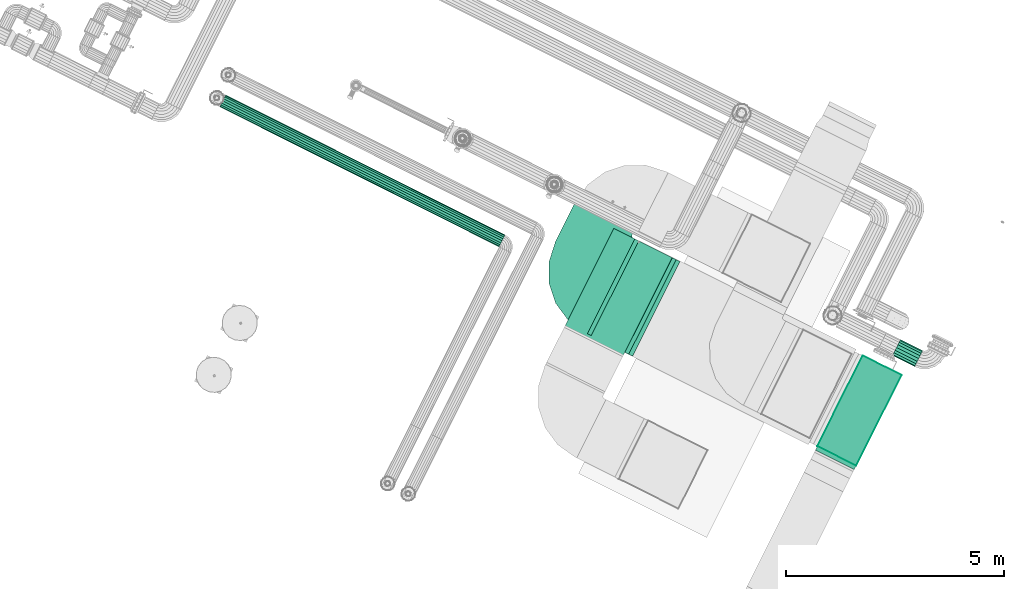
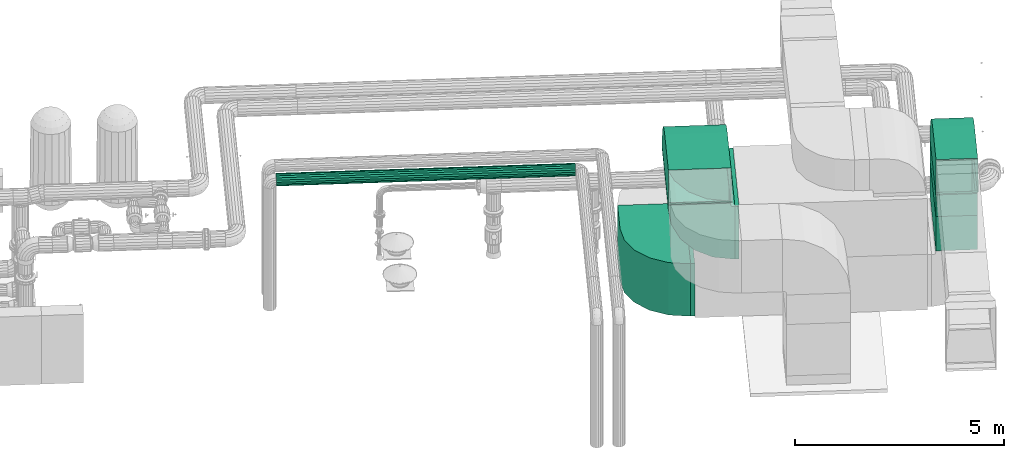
# One storey, part 7 of 152: 4 flow fittings, 4 flow segments, 2 flow moving devices.
"""IFC2X3 building model written with IfcOpenShell, lengths in metres."""

from ifc_helpers import new_model, si_unit, derived_unit, direction, frame, origin, place, context, subcontext, project, spatial, face_set, surface_model, source, transform, mapped, material, type_object, type_shapes, element, save


model = new_model("IFC2X3")

# Units and contexts
model_context = context("Model", 3, precision=5.2338327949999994e-05, world=origin(), true_north=direction((0.0, 1.0)))
body_context = subcontext(model_context, "Body", "Model", "MODEL_VIEW")
ifc_project = project(units=[si_unit("LENGTHUNIT", "METRE"), si_unit("AREAUNIT", "SQUARE_METRE"), si_unit("VOLUMEUNIT", "CUBIC_METRE"), si_unit("MASSUNIT", "GRAM", prefix="KILO"), si_unit("PLANEANGLEUNIT", "RADIAN"), derived_unit("THERMALTRANSMITTANCEUNIT", [(si_unit("MASSUNIT", "GRAM", prefix="KILO"), 1), (si_unit("THERMODYNAMICTEMPERATUREUNIT", "KELVIN"), -1), (si_unit("TIMEUNIT", "SECOND"), -3)])], contexts=[model_context])

# Site, building, storey
site_placement = place(None, frame((0.0, 0.0, 0.0), z_axis=(0.0, 0.0, 1.0), x_axis=(0.8939966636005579, -0.4480736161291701, 0.0)))
site = spatial("IfcSite", under=ifc_project, at=site_placement, Name="Default", CompositionType="ELEMENT")
building_placement = place(site_placement, origin())
building = spatial("IfcBuilding", under=site, at=building_placement, CompositionType="ELEMENT")
storey_placement = place(building_placement, frame((0.0, 0.0, 2.7499999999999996)))
storey = spatial("IfcBuildingStorey", under=building, at=storey_placement, Name="1. Obergeschoss", CompositionType="ELEMENT", Elevation=2.7499999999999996)

# Flow segment
ifc_material_1 = material(Name="IfcSurfaceStyle #9317")
distribution_element_type_1 = type_object("IfcDistributionElementType", Name="Stahlrohr nach DIN 2448 251962:Stahlrohr nach DIN 2448 251962", material=ifc_material_1)
shared_shape_1 = source(origin(), body_context, "Body", "SurfaceModel", [
    surface_model("IfcFaceBasedSurfaceModel", [(24.943699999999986, 6.7661679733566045, 6.613249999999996), (24.943699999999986, 6.746621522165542, 6.616696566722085), (17.778232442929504, 6.746621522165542, 6.616696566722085), (17.778232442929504, 6.7661679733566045, 6.613249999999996), (24.943699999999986, 6.729432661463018, 6.62662056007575), (17.778232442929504, 6.729432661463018, 6.62662056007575), (24.943699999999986, 6.716674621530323, 6.641824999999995), (17.778232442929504, 6.716674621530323, 6.641825), (24.943699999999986, 6.709886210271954, 6.660476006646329), (17.778232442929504, 6.709886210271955, 6.660476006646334), (24.943699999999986, 6.709886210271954, 6.680323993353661), (17.778232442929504, 6.709886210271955, 6.680323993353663), (24.943699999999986, 6.716674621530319, 6.698975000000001), (17.778232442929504, 6.716674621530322, 6.698975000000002), (24.943699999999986, 6.729432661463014, 6.714179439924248), (17.778232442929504, 6.729432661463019, 6.714179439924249), (24.943699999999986, 6.746621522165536, 6.724103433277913), (17.778232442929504, 6.74662152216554, 6.724103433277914), (24.943699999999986, 6.7661679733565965, 6.727549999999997), (17.778232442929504, 6.766167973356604, 6.727549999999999), (24.943699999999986, 6.785714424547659, 6.7241034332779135), (17.778232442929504, 6.785714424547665, 6.724103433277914), (24.943699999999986, 6.802903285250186, 6.714179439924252), (17.778232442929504, 6.8029032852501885, 6.71417943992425), (24.943699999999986, 6.81566132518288, 6.698975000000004), (17.778232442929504, 6.815661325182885, 6.698975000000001), (24.943699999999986, 6.822449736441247, 6.680323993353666), (17.778232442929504, 6.82244973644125, 6.680323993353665), (24.943699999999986, 6.822449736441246, 6.660476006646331), (17.778232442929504, 6.822449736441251, 6.660476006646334), (24.943699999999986, 6.815661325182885, 6.641825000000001), (17.778232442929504, 6.815661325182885, 6.641825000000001), (24.943699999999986, 6.8029032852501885, 6.626620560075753), (17.778232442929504, 6.802903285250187, 6.62662056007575), (24.943699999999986, 6.785714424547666, 6.616696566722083), (17.778232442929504, 6.785714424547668, 6.616696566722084), (24.943699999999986, 6.766167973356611, 6.5132499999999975), (24.943699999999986, 6.712419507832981, 6.522727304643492), (17.778232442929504, 6.712419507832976, 6.522727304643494), (17.778232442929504, 6.766167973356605, 6.513249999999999), (24.943699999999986, 6.665153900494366, 6.550016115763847), (17.778232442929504, 6.665153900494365, 6.550016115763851), (24.943699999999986, 6.63007208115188, 6.591824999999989), (17.778232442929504, 6.63007208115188, 6.591824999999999), (24.943699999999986, 6.611405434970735, 6.643111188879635), (17.778232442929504, 6.611405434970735, 6.64311118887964), (24.943699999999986, 6.61140543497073, 6.6976888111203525), (17.778232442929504, 6.6114054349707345, 6.697688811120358), (24.943699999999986, 6.630072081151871, 6.748974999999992), (17.778232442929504, 6.630072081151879, 6.748974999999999), (24.943699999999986, 6.665153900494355, 6.790783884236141), (17.778232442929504, 6.665153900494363, 6.790783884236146), (24.943699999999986, 6.712419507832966, 6.818072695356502), (17.778232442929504, 6.712419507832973, 6.8180726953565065), (24.943699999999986, 6.766167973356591, 6.827549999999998), (17.778232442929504, 6.766167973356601, 6.82755), (24.943699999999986, 6.819916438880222, 6.818072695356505), (17.778232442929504, 6.81991643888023, 6.818072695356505), (24.943699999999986, 6.8671820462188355, 6.790783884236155), (17.778232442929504, 6.867182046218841, 6.790783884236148), (24.943699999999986, 6.902263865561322, 6.748975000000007), (17.778232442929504, 6.902263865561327, 6.748974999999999), (24.943699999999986, 6.920930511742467, 6.697688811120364), (17.778232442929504, 6.920930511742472, 6.697688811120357), (24.943699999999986, 6.920930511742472, 6.643111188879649), (17.778232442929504, 6.920930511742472, 6.643111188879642), (24.943699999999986, 6.902263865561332, 6.5918250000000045), (17.778232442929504, 6.902263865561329, 6.591825), (24.943699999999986, 6.867182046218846, 6.550016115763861), (17.778232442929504, 6.8671820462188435, 6.550016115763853), (24.943699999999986, 6.819916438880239, 6.522727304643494), (17.778232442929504, 6.8199164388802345, 6.522727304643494)], [face_set([[[0, 1, 2, 3]], [[1, 4, 5, 2]], [[4, 6, 7, 5]], [[6, 8, 9, 7]], [[8, 10, 11, 9]], [[10, 12, 13, 11]], [[12, 14, 15, 13]], [[14, 16, 17, 15]], [[16, 18, 19, 17]], [[18, 20, 21, 19]], [[20, 22, 23, 21]], [[22, 24, 25, 23]], [[24, 26, 27, 25]], [[26, 28, 29, 27]], [[28, 30, 31, 29]], [[30, 32, 33, 31]], [[32, 34, 35, 33]], [[34, 0, 3, 35]], [[36, 37, 38, 39]], [[37, 40, 41, 38]], [[40, 42, 43, 41]], [[42, 44, 45, 43]], [[44, 46, 47, 45]], [[46, 48, 49, 47]], [[48, 50, 51, 49]], [[50, 52, 53, 51]], [[52, 54, 55, 53]], [[54, 56, 57, 55]], [[56, 58, 59, 57]], [[58, 60, 61, 59]], [[60, 62, 63, 61]], [[62, 64, 65, 63]], [[64, 66, 67, 65]], [[66, 68, 69, 67]], [[68, 70, 71, 69]], [[70, 36, 39, 71]]])]),
])
type_shapes(distribution_element_type_1, [shared_shape_1])
flow_segment_1_placement = place(storey_placement, frame((0.0, 0.0, -2.7499999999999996)))
element("IfcFlowSegment", 1, at=flow_segment_1_placement, inside=storey, type_object=distribution_element_type_1, material=ifc_material_1, Name="Stahlrohr nach DIN 2448", ObjectType="Stahlrohr nach DIN 2448", context=body_context, shape_type="MappedRepresentation", body=[
    mapped(shared_shape_1, transform((0.0, 0.0, 0.0), scale=1.0)),
])

# Flow moving devices
ifc_material_2 = material(Name="IfcSurfaceStyle #271263")
distribution_element_type_2 = type_object("IfcDistributionElementType", Name="Geräteanschluss 271206:Geräteanschluss 271206", material=ifc_material_2)
shared_shape_2 = source(origin(), body_context, "Body", "SurfaceModel", [
    surface_model("IfcFaceBasedSurfaceModel", [(28.807000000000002, 5.74186958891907, 4.6209999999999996), (28.706999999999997, 5.74186958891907, 4.6209999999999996), (28.706999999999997, 8.173869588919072, 4.6209999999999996), (28.807000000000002, 8.173869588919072, 4.6209999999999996), (28.706999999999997, 8.173869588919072, 6.151), (28.807000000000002, 8.173869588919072, 6.151), (28.706999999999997, 5.74186958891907, 6.151), (28.807000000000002, 5.74186958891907, 6.151)], [face_set([[[0, 1, 2, 3]], [[3, 2, 4, 5]], [[5, 4, 6, 7]], [[7, 6, 1, 0]]])]),
])
type_shapes(distribution_element_type_2, [shared_shape_2])
flow_moving_device_1_placement = place(storey_placement, frame((0.0, 0.0, -2.7499999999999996)))
element("IfcFlowMovingDevice", 2, at=flow_moving_device_1_placement, inside=storey, type_object=distribution_element_type_2, material=ifc_material_2, Name="Geräteanschluss", ObjectType="Geräteanschluss", context=body_context, shape_type="MappedRepresentation", body=[
    mapped(shared_shape_2, transform((0.0, 0.0, 0.0), scale=1.0)),
])
ifc_material_3 = material(Name="IfcSurfaceStyle #271571")
distribution_element_type_3 = type_object("IfcDistributionElementType", Name="Geräteanschluss 271546:Geräteanschluss 271546", material=ifc_material_3)
shared_shape_3 = source(origin(), body_context, "Body", "SurfaceModel", [
    surface_model("IfcFaceBasedSurfaceModel", [(27.747, 5.74186958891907, 2.997), (27.646999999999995, 5.74186958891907, 2.997), (27.646999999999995, 8.173869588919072, 2.997), (27.747, 8.173869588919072, 2.997), (27.646999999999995, 8.173869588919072, 4.526999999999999), (27.747, 8.173869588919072, 4.526999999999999), (27.646999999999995, 5.74186958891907, 4.526999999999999), (27.747, 5.74186958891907, 4.526999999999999)], [face_set([[[0, 1, 2, 3]], [[3, 2, 4, 5]], [[5, 4, 6, 7]], [[7, 6, 1, 0]]])]),
])
type_shapes(distribution_element_type_3, [shared_shape_3])
flow_moving_device_2_placement = place(storey_placement, frame((0.0, 0.0, -2.7499999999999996)))
element("IfcFlowMovingDevice", 3, at=flow_moving_device_2_placement, inside=storey, type_object=distribution_element_type_3, material=ifc_material_3, Name="Geräteanschluss", ObjectType="Geräteanschluss", context=body_context, shape_type="MappedRepresentation", body=[
    mapped(shared_shape_3, transform((0.0, 0.0, 0.0), scale=1.0)),
])

# Flow fittings
distribution_element_type_4 = type_object("IfcDistributionElementType", Name="Bogen asymmetrisch:Bogen asymmetrisch", material=ifc_material_3)
shared_shape_4 = source(origin(), body_context, "Body", "SurfaceModel", [
    surface_model("IfcFaceBasedSurfaceModel", [(26.046999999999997, 7.29186958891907, 4.526999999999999), (26.046999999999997, 8.273869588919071, 4.526999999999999), (26.046999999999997, 8.273869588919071, 2.997), (26.046999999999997, 7.29186958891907, 2.997), (27.546999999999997, 8.273869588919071, 4.526999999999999), (27.546999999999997, 8.223869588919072, 4.526999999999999), (27.546999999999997, 8.223869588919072, 2.997), (27.546999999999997, 8.273869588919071, 2.997), (27.596999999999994, 8.173869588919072, 2.997), (27.581549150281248, 8.176316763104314, 2.997), (27.581549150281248, 8.176316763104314, 4.526999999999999), (27.596999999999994, 8.173869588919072, 4.526999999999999), (27.567610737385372, 8.183418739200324, 2.997), (27.567610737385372, 8.183418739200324, 4.526999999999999), (27.55654915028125, 8.194480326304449, 2.997), (27.55654915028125, 8.194480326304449, 4.526999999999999), (27.549447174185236, 8.208418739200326, 2.997), (27.549447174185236, 8.208418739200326, 4.526999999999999), (27.646999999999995, 8.173869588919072, 4.526999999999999), (27.646999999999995, 8.173869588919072, 2.997), (27.646999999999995, 5.74186958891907, 4.526999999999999), (27.596999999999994, 5.74186958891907, 4.526999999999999), (27.596999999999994, 5.74186958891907, 2.997), (27.646999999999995, 5.74186958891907, 2.997), (26.122862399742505, 6.812893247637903, 2.997), (26.122862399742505, 6.812893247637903, 4.526999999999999), (26.343023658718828, 6.380802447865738, 2.997), (26.343023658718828, 6.380802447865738, 4.526999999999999), (26.685932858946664, 6.0378932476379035, 2.997), (26.685932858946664, 6.0378932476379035, 4.526999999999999), (27.118023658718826, 5.81773198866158, 2.997), (27.118023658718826, 5.81773198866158, 4.526999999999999)], [face_set([[[0, 1, 2, 3]], [[4, 5, 6, 7]], [[8, 9, 10, 11]], [[9, 12, 13, 10]], [[12, 14, 15, 13]], [[14, 16, 17, 15]], [[16, 6, 5, 17]], [[11, 18, 19, 8]], [[20, 21, 22, 23]], [[3, 24, 25, 0]], [[24, 26, 27, 25]], [[26, 28, 29, 27]], [[28, 30, 31, 29]], [[30, 22, 21, 31]], [[3, 2, 7]], [[3, 7, 6]], [[3, 6, 16]], [[3, 16, 14]], [[3, 14, 12]], [[3, 12, 9]], [[3, 9, 8]], [[3, 8, 19]], [[3, 19, 23]], [[3, 23, 22]], [[3, 22, 30]], [[3, 30, 28]], [[3, 28, 26]], [[3, 26, 24]], [[4, 1, 0]], [[5, 4, 0]], [[17, 5, 0]], [[15, 17, 0]], [[13, 15, 0]], [[10, 13, 0]], [[11, 10, 0]], [[18, 11, 0]], [[20, 18, 0]], [[21, 20, 0]], [[31, 21, 0]], [[29, 31, 0]], [[27, 29, 0]], [[25, 27, 0]]])]),
])
type_shapes(distribution_element_type_4, [shared_shape_4])
flow_fitting_1_placement = place(storey_placement, frame((0.0, 0.0, -2.7499999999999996)))
element("IfcFlowFitting", 4, at=flow_fitting_1_placement, inside=storey, type_object=distribution_element_type_4, material=ifc_material_3, Name="Bogen asymmetrisch", ObjectType="Bogen asymmetrisch", context=body_context, shape_type="MappedRepresentation", body=[
    mapped(shared_shape_4, transform((0.0, 0.0, 0.0), scale=1.0)),
])
distribution_element_type_5 = type_object("IfcDistributionElementType", Name="Bogen asymmetrisch 273551:Bogen asymmetrisch 273551", material=ifc_material_2)
shared_shape_5 = source(origin(), body_context, "Body", "SurfaceModel", [
    surface_model("IfcFaceBasedSurfaceModel", [(28.657, 5.74186958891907, 4.620999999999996), (28.178023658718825, 5.74186958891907, 4.696862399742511), (28.178023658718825, 8.173869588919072, 4.696862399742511), (28.656999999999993, 8.173869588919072, 4.620999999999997), (27.745932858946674, 5.74186958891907, 4.917023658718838), (27.74593285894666, 8.173869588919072, 4.917023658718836), (27.403023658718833, 5.74186958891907, 5.259932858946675), (27.403023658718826, 8.173869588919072, 5.259932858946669), (27.18286239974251, 5.74186958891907, 5.692023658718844), (27.182862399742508, 8.173869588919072, 5.692023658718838), (27.107000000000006, 5.74186958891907, 6.1710000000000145), (27.10699999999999, 8.173869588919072, 6.17100000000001), (28.706999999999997, 8.173869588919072, 4.620999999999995), (28.707, 5.74186958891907, 4.620999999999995), (28.70699999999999, 8.173869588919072, 6.150999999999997), (28.656999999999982, 8.173869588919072, 6.151), (28.656999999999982, 5.741869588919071, 6.151), (28.70699999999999, 5.741869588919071, 6.150999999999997), (28.606999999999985, 5.741869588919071, 6.200999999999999), (28.609447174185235, 5.741869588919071, 6.185549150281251), (28.609447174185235, 8.173869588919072, 6.185549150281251), (28.606999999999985, 8.173869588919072, 6.200999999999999), (28.616549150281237, 5.741869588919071, 6.171610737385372), (28.616549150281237, 8.173869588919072, 6.171610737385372), (28.627610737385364, 5.741869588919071, 6.160549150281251), (28.627610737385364, 8.173869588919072, 6.160549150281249), (28.641549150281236, 5.741869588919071, 6.153447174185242), (28.641549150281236, 8.173869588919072, 6.153447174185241), (28.606999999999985, 8.173869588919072, 6.250999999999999), (28.606999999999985, 5.741869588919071, 6.2509999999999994), (27.10699999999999, 8.173869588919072, 6.251000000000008), (27.106999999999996, 5.741869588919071, 6.251000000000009)], [face_set([[[0, 1, 2, 3]], [[1, 4, 5, 2]], [[4, 6, 7, 5]], [[6, 8, 9, 7]], [[8, 10, 11, 9]], [[3, 12, 13, 0]], [[14, 15, 16, 17]], [[18, 19, 20, 21]], [[19, 22, 23, 20]], [[22, 24, 25, 23]], [[24, 26, 27, 25]], [[26, 16, 15, 27]], [[21, 28, 29, 18]], [[30, 11, 10, 31]], [[1, 0, 26]], [[1, 26, 24]], [[1, 24, 22]], [[1, 22, 19]], [[1, 19, 18]], [[1, 18, 31]], [[1, 31, 4]], [[16, 26, 0]], [[16, 0, 13]], [[16, 13, 17]], [[31, 10, 8]], [[31, 8, 6]], [[31, 6, 4]], [[31, 18, 29]], [[27, 3, 2]], [[25, 27, 2]], [[23, 25, 2]], [[20, 23, 2]], [[21, 20, 2]], [[30, 21, 2]], [[5, 30, 2]], [[3, 27, 15]], [[12, 3, 15]], [[14, 12, 15]], [[9, 11, 30]], [[7, 9, 30]], [[5, 7, 30]], [[28, 21, 30]]])]),
])
type_shapes(distribution_element_type_5, [shared_shape_5])
flow_fitting_2_placement = place(storey_placement, frame((0.0, 0.0, -2.7499999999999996)))
element("IfcFlowFitting", 5, at=flow_fitting_2_placement, inside=storey, type_object=distribution_element_type_5, material=ifc_material_2, Name="Bogen asymmetrisch", ObjectType="Bogen asymmetrisch", context=body_context, shape_type="MappedRepresentation", body=[
    mapped(shared_shape_5, transform((0.0, 0.0, 0.0), scale=1.0)),
])
distribution_element_type_6 = type_object("IfcDistributionElementType", Name="Bogen asymmetrisch 273840:Bogen asymmetrisch 273840", material=ifc_material_2)
shared_shape_6 = source(origin(), body_context, "Body", "SurfaceModel", [
    surface_model("IfcFaceBasedSurfaceModel", [(27.106999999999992, 7.123869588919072, 7.351), (27.106999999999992, 5.6418695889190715, 7.351), (28.606999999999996, 5.6418695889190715, 7.351), (28.606999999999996, 7.123869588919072, 7.351), (27.106999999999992, 5.6418695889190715, 6.351), (27.106999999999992, 5.691869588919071, 6.351), (28.606999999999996, 5.691869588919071, 6.351), (28.606999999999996, 5.6418695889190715, 6.351), (28.606999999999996, 5.74186958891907, 6.301), (28.606999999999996, 5.739422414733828, 6.316450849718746), (27.106999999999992, 5.739422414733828, 6.316450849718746), (27.106999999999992, 5.74186958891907, 6.301), (28.606999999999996, 5.732320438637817, 6.330389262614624), (27.106999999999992, 5.732320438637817, 6.330389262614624), (28.606999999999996, 5.721258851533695, 6.341450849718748), (27.106999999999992, 5.721258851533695, 6.341450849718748), (28.606999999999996, 5.707320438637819, 6.3485528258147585), (27.106999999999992, 5.707320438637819, 6.3485528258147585), (27.106999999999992, 5.74186958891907, 6.250999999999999), (28.606999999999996, 5.74186958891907, 6.250999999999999), (27.106999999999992, 8.173869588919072, 6.250999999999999), (27.106999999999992, 8.173869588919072, 6.301), (28.606999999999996, 8.173869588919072, 6.301), (28.606999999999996, 8.173869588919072, 6.250999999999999), (28.606999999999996, 7.448337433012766, 7.299609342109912), (27.106999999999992, 7.448337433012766, 7.299609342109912), (28.606999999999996, 7.741044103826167, 7.150467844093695), (27.106999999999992, 7.741044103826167, 7.150467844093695), (28.606999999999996, 7.973337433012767, 6.918174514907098), (27.106999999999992, 7.973337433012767, 6.918174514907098), (28.606999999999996, 8.122478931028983, 6.625467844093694), (27.106999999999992, 8.122478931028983, 6.625467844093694)], [face_set([[[0, 1, 2, 3]], [[4, 5, 6, 7]], [[8, 9, 10, 11]], [[9, 12, 13, 10]], [[12, 14, 15, 13]], [[14, 16, 17, 15]], [[16, 6, 5, 17]], [[11, 18, 19, 8]], [[20, 21, 22, 23]], [[3, 24, 25, 0]], [[24, 26, 27, 25]], [[26, 28, 29, 27]], [[28, 30, 31, 29]], [[30, 22, 21, 31]], [[3, 2, 7]], [[3, 7, 6]], [[3, 6, 16]], [[3, 16, 14]], [[3, 14, 12]], [[3, 12, 9]], [[3, 9, 8]], [[3, 8, 19]], [[3, 19, 23]], [[3, 23, 22]], [[3, 22, 30]], [[3, 30, 28]], [[3, 28, 26]], [[3, 26, 24]], [[4, 1, 0]], [[5, 4, 0]], [[17, 5, 0]], [[15, 17, 0]], [[13, 15, 0]], [[10, 13, 0]], [[11, 10, 0]], [[18, 11, 0]], [[20, 18, 0]], [[21, 20, 0]], [[31, 21, 0]], [[29, 31, 0]], [[27, 29, 0]], [[25, 27, 0]]])]),
])
type_shapes(distribution_element_type_6, [shared_shape_6])
flow_fitting_3_placement = place(storey_placement, frame((0.0, 0.0, -2.7499999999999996)))
element("IfcFlowFitting", 6, at=flow_fitting_3_placement, inside=storey, type_object=distribution_element_type_6, material=ifc_material_2, Name="Bogen asymmetrisch", ObjectType="Bogen asymmetrisch", context=body_context, shape_type="MappedRepresentation", body=[
    mapped(shared_shape_6, transform((0.0, 0.0, 0.0), scale=1.0)),
])
ifc_material_4 = material(Name="IfcSurfaceStyle #274455")
distribution_element_type_7 = type_object("IfcDistributionElementType", Name="Bogen asymmetrisch 276563:Bogen asymmetrisch 276563", material=ifc_material_4)
shared_shape_7 = source(origin(), body_context, "Body", "SurfaceModel", [
    surface_model("IfcFaceBasedSurfaceModel", [(33.519999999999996, 7.07036958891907, 7.351), (33.519999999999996, 5.695369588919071, 7.351), (34.52, 5.695369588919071, 7.351), (34.52, 7.07036958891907, 7.351), (33.519999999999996, 5.695369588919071, 6.351), (33.519999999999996, 5.745369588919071, 6.351), (34.52, 5.745369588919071, 6.351), (34.52, 5.695369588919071, 6.351), (34.52, 5.795369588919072, 6.301), (34.52, 5.7929224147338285, 6.316450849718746), (33.519999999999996, 5.7929224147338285, 6.316450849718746), (33.519999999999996, 5.795369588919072, 6.301), (34.52, 5.785820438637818, 6.330389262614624), (33.519999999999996, 5.785820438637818, 6.330389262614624), (34.52, 5.7747588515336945, 6.341450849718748), (33.519999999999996, 5.7747588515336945, 6.341450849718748), (34.52, 5.760820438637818, 6.3485528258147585), (33.519999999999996, 5.760820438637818, 6.3485528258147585), (33.519999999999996, 5.795369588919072, 6.250999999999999), (34.52, 5.795369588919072, 6.250999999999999), (33.519999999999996, 8.120369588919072, 6.250999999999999), (33.519999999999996, 8.120369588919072, 6.301), (34.52, 8.120369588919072, 6.301), (34.52, 8.120369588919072, 6.250999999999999), (34.52, 7.394837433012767, 7.299609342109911), (33.519999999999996, 7.394837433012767, 7.299609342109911), (34.52, 7.687544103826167, 7.150467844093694), (33.519999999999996, 7.687544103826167, 7.150467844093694), (34.52, 7.919837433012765, 6.918174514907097), (33.519999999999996, 7.919837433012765, 6.918174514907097), (34.52, 8.068978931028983, 6.625467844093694), (33.519999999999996, 8.068978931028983, 6.625467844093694)], [face_set([[[0, 1, 2, 3]], [[4, 5, 6, 7]], [[8, 9, 10, 11]], [[9, 12, 13, 10]], [[12, 14, 15, 13]], [[14, 16, 17, 15]], [[16, 6, 5, 17]], [[11, 18, 19, 8]], [[20, 21, 22, 23]], [[3, 24, 25, 0]], [[24, 26, 27, 25]], [[26, 28, 29, 27]], [[28, 30, 31, 29]], [[30, 22, 21, 31]], [[3, 2, 7]], [[3, 7, 6]], [[3, 6, 16]], [[3, 16, 14]], [[3, 14, 12]], [[3, 12, 9]], [[3, 9, 8]], [[3, 8, 19]], [[3, 19, 23]], [[3, 23, 22]], [[3, 22, 30]], [[3, 30, 28]], [[3, 28, 26]], [[3, 26, 24]], [[4, 1, 0]], [[5, 4, 0]], [[17, 5, 0]], [[15, 17, 0]], [[13, 15, 0]], [[10, 13, 0]], [[11, 10, 0]], [[18, 11, 0]], [[20, 18, 0]], [[21, 20, 0]], [[31, 21, 0]], [[29, 31, 0]], [[27, 29, 0]], [[25, 27, 0]]])]),
])
type_shapes(distribution_element_type_7, [shared_shape_7])
flow_fitting_4_placement = place(storey_placement, frame((0.0, 0.0, -2.7499999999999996)))
element("IfcFlowFitting", 7, at=flow_fitting_4_placement, inside=storey, type_object=distribution_element_type_7, material=ifc_material_4, Name="Bogen asymmetrisch", ObjectType="Bogen asymmetrisch", context=body_context, shape_type="MappedRepresentation", body=[
    mapped(shared_shape_7, transform((0.0, 0.0, 0.0), scale=1.0)),
])

# Flow segments
distribution_element_type_8 = type_object("IfcDistributionElementType", Name="Luftleitung 276864:Luftleitung 276864", material=ifc_material_4)
shared_shape_8 = source(origin(), body_context, "Body", "SurfaceModel", [
    surface_model("IfcFaceBasedSurfaceModel", [(33.519999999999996, 5.795369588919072, 4.618999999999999), (33.519999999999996, 5.795369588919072, 5.619000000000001), (33.519999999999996, 8.120369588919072, 5.619000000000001), (33.519999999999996, 8.120369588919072, 4.619000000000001), (34.52, 8.120369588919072, 5.619000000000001), (34.52, 8.120369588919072, 4.619000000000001), (34.52, 5.795369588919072, 5.619000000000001), (34.52, 5.79536958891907, 4.619000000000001)], [face_set([[[0, 1, 2, 3]], [[3, 2, 4, 5]], [[5, 4, 6, 7]], [[7, 6, 1, 0]]])]),
])
type_shapes(distribution_element_type_8, [shared_shape_8])
flow_segment_2_placement = place(storey_placement, frame((0.0, 0.0, -2.7499999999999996)))
element("IfcFlowSegment", 8, at=flow_segment_2_placement, inside=storey, type_object=distribution_element_type_8, material=ifc_material_4, Name="Luftleitung", ObjectType="Luftleitung", context=body_context, shape_type="MappedRepresentation", body=[
    mapped(shared_shape_8, transform((0.0, 0.0, 0.0), scale=1.0)),
])
distribution_element_type_9 = type_object("IfcDistributionElementType", Name="Luftleitungsteil 276919:Luftleitungsteil 276919", material=ifc_material_4)
shared_shape_9 = source(origin(), body_context, "Body", "SurfaceModel", [
    surface_model("IfcFaceBasedSurfaceModel", [(33.519999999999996, 5.795369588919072, 5.619), (33.519999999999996, 5.795369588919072, 6.250999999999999), (33.519999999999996, 8.120369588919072, 6.250999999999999), (33.519999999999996, 8.120369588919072, 5.619), (34.52, 8.120369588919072, 6.250999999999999), (34.52, 8.120369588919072, 5.619000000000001), (34.52, 5.795369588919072, 6.250999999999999), (34.52, 5.795369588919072, 5.619000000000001)], [face_set([[[0, 1, 2, 3]], [[3, 2, 4, 5]], [[5, 4, 6, 7]], [[7, 6, 1, 0]]])]),
])
type_shapes(distribution_element_type_9, [shared_shape_9])
flow_segment_3_placement = place(storey_placement, frame((0.0, 0.0, -2.7499999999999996)))
element("IfcFlowSegment", 9, at=flow_segment_3_placement, inside=storey, type_object=distribution_element_type_9, material=ifc_material_4, Name="Luftleitungsteil", ObjectType="Luftleitungsteil", context=body_context, shape_type="MappedRepresentation", body=[
    mapped(shared_shape_9, transform((0.0, 0.0, 0.0), scale=1.0)),
])
distribution_element_type_10 = type_object("IfcDistributionElementType", Name="Stahlrohr nach DIN 2448 612719:Stahlrohr nach DIN 2448 612719", material=ifc_material_1)
shared_shape_10 = source(origin(), body_context, "Body", "SurfaceModel", [
    surface_model("IfcFaceBasedSurfaceModel", [(34.699528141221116, 8.633986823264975, 4.449999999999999), (34.699528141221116, 8.596518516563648, 4.456606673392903), (34.12827278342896, 8.596518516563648, 4.456606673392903), (34.12827278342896, 8.633986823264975, 4.449999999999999), (34.699528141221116, 8.563569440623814, 4.475629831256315), (34.12827278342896, 8.563569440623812, 4.475629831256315), (34.699528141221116, 8.539113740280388, 4.504775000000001), (34.12827278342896, 8.539113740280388, 4.504775), (34.699528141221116, 8.526101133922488, 4.540526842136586), (34.12827278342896, 8.526101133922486, 4.540526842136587), (34.699528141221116, 8.526101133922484, 4.57857315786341), (34.12827278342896, 8.526101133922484, 4.578573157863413), (34.699528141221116, 8.53911374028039, 4.614325), (34.12827278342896, 8.539113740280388, 4.614324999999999), (34.699528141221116, 8.563569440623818, 4.643470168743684), (34.12827278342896, 8.563569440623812, 4.643470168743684), (34.699528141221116, 8.596518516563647, 4.662493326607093), (34.12827278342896, 8.596518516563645, 4.662493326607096), (34.699528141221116, 8.633986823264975, 4.669100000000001), (34.12827278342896, 8.633986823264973, 4.6691), (34.699528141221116, 8.671455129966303, 4.662493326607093), (34.12827278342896, 8.6714551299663, 4.662493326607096), (34.699528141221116, 8.704404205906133, 4.643470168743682), (34.12827278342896, 8.704404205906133, 4.643470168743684), (34.699528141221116, 8.728859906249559, 4.614324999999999), (34.12827278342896, 8.728859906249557, 4.614325), (34.699528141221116, 8.741872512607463, 4.578573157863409), (34.12827278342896, 8.741872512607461, 4.578573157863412), (34.699528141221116, 8.741872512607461, 4.540526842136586), (34.12827278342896, 8.741872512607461, 4.540526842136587), (34.699528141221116, 8.72885990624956, 4.504774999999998), (34.12827278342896, 8.728859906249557, 4.5047749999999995), (34.699528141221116, 8.704404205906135, 4.475629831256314), (34.12827278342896, 8.704404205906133, 4.475629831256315), (34.699528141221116, 8.6714551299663, 4.456606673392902), (34.12827278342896, 8.6714551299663, 4.456606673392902), (34.699528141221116, 8.633986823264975, 4.349999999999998), (34.699528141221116, 8.562316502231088, 4.362637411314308), (34.12827278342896, 8.56231650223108, 4.362637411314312), (34.12827278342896, 8.633986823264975, 4.3500000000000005), (34.699528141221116, 8.499290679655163, 4.399025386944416), (34.12827278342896, 8.499290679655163, 4.399025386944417), (34.699528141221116, 8.452511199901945, 4.454775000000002), (34.12827278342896, 8.452511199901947, 4.454775), (34.699528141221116, 8.427620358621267, 4.523162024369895), (34.12827278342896, 8.427620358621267, 4.523162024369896), (34.699528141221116, 8.427620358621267, 4.595937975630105), (34.12827278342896, 8.427620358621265, 4.595937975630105), (34.699528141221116, 8.452511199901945, 4.664325), (34.12827278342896, 8.452511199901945, 4.664325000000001), (34.699528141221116, 8.49929067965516, 4.720074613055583), (34.12827278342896, 8.49929067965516, 4.720074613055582), (34.699528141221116, 8.56231650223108, 4.756462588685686), (34.12827278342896, 8.562316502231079, 4.756462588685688), (34.699528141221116, 8.633986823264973, 4.769099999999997), (34.12827278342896, 8.633986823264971, 4.769100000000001), (34.699528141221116, 8.705657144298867, 4.756462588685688), (34.12827278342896, 8.705657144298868, 4.756462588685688), (34.699528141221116, 8.768682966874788, 4.720074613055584), (34.12827278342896, 8.768682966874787, 4.720074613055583), (34.699528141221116, 8.815462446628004, 4.664324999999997), (34.12827278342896, 8.815462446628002, 4.664324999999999), (34.699528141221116, 8.840353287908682, 4.595937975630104), (34.12827278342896, 8.840353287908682, 4.595937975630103), (34.699528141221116, 8.840353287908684, 4.523162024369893), (34.12827278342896, 8.840353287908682, 4.523162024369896), (34.699528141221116, 8.815462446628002, 4.454774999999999), (34.12827278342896, 8.815462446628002, 4.454774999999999), (34.699528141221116, 8.76868296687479, 4.399025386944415), (34.12827278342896, 8.768682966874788, 4.399025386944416), (34.699528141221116, 8.70565714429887, 4.362637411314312), (34.12827278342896, 8.705657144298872, 4.362637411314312)], [face_set([[[0, 1, 2, 3]], [[1, 4, 5, 2]], [[4, 6, 7, 5]], [[6, 8, 9, 7]], [[8, 10, 11, 9]], [[10, 12, 13, 11]], [[12, 14, 15, 13]], [[14, 16, 17, 15]], [[16, 18, 19, 17]], [[18, 20, 21, 19]], [[20, 22, 23, 21]], [[22, 24, 25, 23]], [[24, 26, 27, 25]], [[26, 28, 29, 27]], [[28, 30, 31, 29]], [[30, 32, 33, 31]], [[32, 34, 35, 33]], [[34, 0, 3, 35]], [[36, 37, 38, 39]], [[37, 40, 41, 38]], [[40, 42, 43, 41]], [[42, 44, 45, 43]], [[44, 46, 47, 45]], [[46, 48, 49, 47]], [[48, 50, 51, 49]], [[50, 52, 53, 51]], [[52, 54, 55, 53]], [[54, 56, 57, 55]], [[56, 58, 59, 57]], [[58, 60, 61, 59]], [[60, 62, 63, 61]], [[62, 64, 65, 63]], [[64, 66, 67, 65]], [[66, 68, 69, 67]], [[68, 70, 71, 69]], [[70, 36, 39, 71]]])]),
])
type_shapes(distribution_element_type_10, [shared_shape_10])
flow_segment_4_placement = place(storey_placement, frame((0.0, 0.0, -2.7499999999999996)))
element("IfcFlowSegment", 10, at=flow_segment_4_placement, inside=storey, type_object=distribution_element_type_10, material=ifc_material_1, Name="Stahlrohr nach DIN 2448", ObjectType="Stahlrohr nach DIN 2448", context=body_context, shape_type="MappedRepresentation", body=[
    mapped(shared_shape_10, transform((0.0, 0.0, 0.0), scale=1.0)),
])

save(model, "model.ifc")
